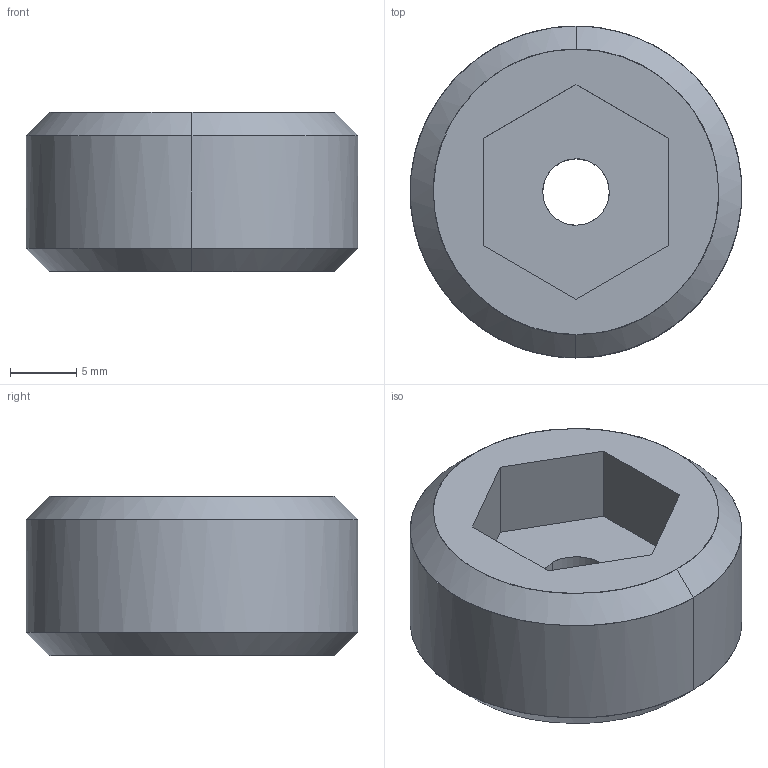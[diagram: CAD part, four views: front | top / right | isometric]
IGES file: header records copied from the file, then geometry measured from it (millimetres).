
Global section: file name: E:\UnigraphicsGraphicData\MISUMI_PRESS-PARTS\IGES\3d_mswh25_00464_r00.igs; native system: NX V5.0; preprocessor: UGS NX IGES V5.0; author: MISUMI; date: 20110105.161524; units: millimetre
Bounding box: 24.97 x 25 x 12 mm (x, y, z)
Surface area: 2103.5 mm2 (no closed solid volume)
Topology: 0 solids, 0 shells, 17 faces, 100 edges, 100 vertices
Faces by surface type: bspline 17
